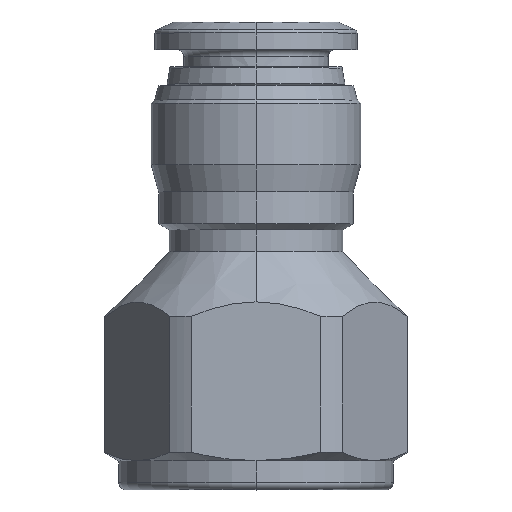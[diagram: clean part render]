
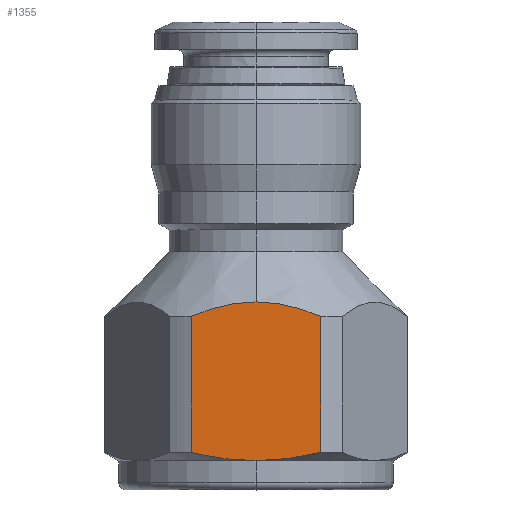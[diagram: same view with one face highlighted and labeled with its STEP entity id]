
A CAD part, top view. The second image highlights one B-rep face of the part: STEP entity #1355.
In plain terms, the highlighted planar face has unit normal (0, 0, 1).
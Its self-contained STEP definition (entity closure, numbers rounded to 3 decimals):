
#8 = CARTESIAN_POINT ( 'NONE',  ( 3.027, 12.556, 9.5 ) ) ;
#36 = CARTESIAN_POINT ( 'NONE',  ( 3.765, 12.301, 9.5 ) ) ;
#76 = CARTESIAN_POINT ( 'NONE',  ( 4.472, 12., 9.5 ) ) ;
#99 = EDGE_CURVE ( 'NONE', #1245, #666, #2232, .T. ) ;
#127 = LINE ( 'NONE', #870, #766 ) ;
#181 = B_SPLINE_CURVE_WITH_KNOTS ( 'NONE', 3,
 ( #2981, #2978, #2961, #2953, #2921, #2879, #2873, #2860, #2837, #2806 ),
 .UNSPECIFIED., .F., .F.,
 ( 4, 2, 2, 2, 4 ),
 ( 0.011, 0.012, 0.013, 0.014, 0.016 ),
 .UNSPECIFIED. ) ;
#371 = EDGE_LOOP ( 'NONE', ( #2923, #740, #1417, #2766, #576, #2686 ) ) ;
#452 = VERTEX_POINT ( 'NONE', #1434 ) ;
#576 = ORIENTED_EDGE ( 'NONE', *, *, #2830, .T. ) ;
#598 = CARTESIAN_POINT ( 'NONE',  ( -4.472, 12., 9.5 ) ) ;
#666 = VERTEX_POINT ( 'NONE', #1421 ) ;
#712 = VERTEX_POINT ( 'NONE', #2433 ) ;
#740 = ORIENTED_EDGE ( 'NONE', *, *, #1415, .T. ) ;
#766 = VECTOR ( 'NONE', #2158, 1000. ) ;
#779 = FACE_OUTER_BOUND ( 'NONE', #371, .T. ) ;
#837 = EDGE_CURVE ( 'NONE', #712, #1278, #2619, .T. ) ;
#870 = CARTESIAN_POINT ( 'NONE',  ( 4.472, 0., 9.5 ) ) ;
#1245 = VERTEX_POINT ( 'NONE', #2082 ) ;
#1278 = VERTEX_POINT ( 'NONE', #1972 ) ;
#1355 = ADVANCED_FACE ( 'NONE', ( #779 ), #3289, .T. ) ;
#1360 = CARTESIAN_POINT ( 'NONE',  ( 1.51, 2.065, 9.5 ) ) ;
#1367 = CARTESIAN_POINT ( 'NONE',  ( 1.888, 2.103, 9.5 ) ) ;
#1385 = CARTESIAN_POINT ( 'NONE',  ( 0.753, 2.013, 9.5 ) ) ;
#1397 = EDGE_CURVE ( 'NONE', #3057, #712, #181, .T. ) ;
#1401 = CARTESIAN_POINT ( 'NONE',  ( 0., 2., 9.5 ) ) ;
#1415 = EDGE_CURVE ( 'NONE', #3057, #452, #1931, .T. ) ;
#1417 = ORIENTED_EDGE ( 'NONE', *, *, #2577, .F. ) ;
#1421 = CARTESIAN_POINT ( 'NONE',  ( 0., 2., 9.5 ) ) ;
#1434 = CARTESIAN_POINT ( 'NONE',  ( -4.472, 2.577, 9.5 ) ) ;
#1496 = CARTESIAN_POINT ( 'NONE',  ( 3.745, 2.399, 9.5 ) ) ;
#1665 = CARTESIAN_POINT ( 'NONE',  ( 0.376, 2., 9.5 ) ) ;
#1811 = CARTESIAN_POINT ( 'NONE',  ( -4.472, 2.577, 9.5 ) ) ;
#1829 = CARTESIAN_POINT ( 'NONE',  ( -3.736, 2.396, 9.5 ) ) ;
#1854 = VECTOR ( 'NONE', #2750, 1000. ) ;
#1931 = LINE ( 'NONE', #2758, #1854 ) ;
#1948 = B_SPLINE_CURVE_WITH_KNOTS ( 'NONE', 3,
 ( #2850, #2601, #3121, #2067, #1829, #1811 ),
 .UNSPECIFIED., .F., .F.,
 ( 4, 2, 4 ),
 ( 0.03, 0.032, 0.034 ),
 .UNSPECIFIED. ) ;
#1972 = CARTESIAN_POINT ( 'NONE',  ( 4.472, 12., 9.5 ) ) ;
#2067 = CARTESIAN_POINT ( 'NONE',  ( -2.993, 2.25, 9.5 ) ) ;
#2082 = CARTESIAN_POINT ( 'NONE',  ( 4.472, 2.577, 9.5 ) ) ;
#2089 = CARTESIAN_POINT ( 'NONE',  ( 4.472, 2.577, 9.5 ) ) ;
#2121 = AXIS2_PLACEMENT_3D ( 'NONE', #3165, #3159, #3155 ) ;
#2158 = DIRECTION ( 'NONE',  ( 0., 1., 0. ) ) ;
#2232 = B_SPLINE_CURVE_WITH_KNOTS ( 'NONE', 3,
 ( #2089, #1496, #2267, #1367, #1360, #1385, #1665, #1401 ),
 .UNSPECIFIED., .F., .F.,
 ( 4, 2, 2, 4 ),
 ( 0.025, 0.028, 0.029, 0.03 ),
 .UNSPECIFIED. ) ;
#2267 = CARTESIAN_POINT ( 'NONE',  ( 3.01, 2.253, 9.5 ) ) ;
#2433 = CARTESIAN_POINT ( 'NONE',  ( 0., 13., 9.5 ) ) ;
#2577 = EDGE_CURVE ( 'NONE', #666, #452, #1948, .T. ) ;
#2601 = CARTESIAN_POINT ( 'NONE',  ( -0.753, 2., 9.5 ) ) ;
#2619 = B_SPLINE_CURVE_WITH_KNOTS ( 'NONE', 3,
 ( #3358, #3296, #3511, #8, #36, #76 ),
 .UNSPECIFIED., .F., .F.,
 ( 4, 2, 4 ),
 ( 0.016, 0.018, 0.02 ),
 .UNSPECIFIED. ) ;
#2686 = ORIENTED_EDGE ( 'NONE', *, *, #837, .F. ) ;
#2750 = DIRECTION ( 'NONE',  ( 0., -1., 0. ) ) ;
#2758 = CARTESIAN_POINT ( 'NONE',  ( -4.472, 0., 9.5 ) ) ;
#2766 = ORIENTED_EDGE ( 'NONE', *, *, #99, .F. ) ;
#2806 = CARTESIAN_POINT ( 'NONE',  ( 0., 13., 9.5 ) ) ;
#2830 = EDGE_CURVE ( 'NONE', #1245, #1278, #127, .T. ) ;
#2837 = CARTESIAN_POINT ( 'NONE',  ( -0.387, 13., 9.5 ) ) ;
#2850 = CARTESIAN_POINT ( 'NONE',  ( 0., 2., 9.5 ) ) ;
#2860 = CARTESIAN_POINT ( 'NONE',  ( -0.777, 12.976, 9.5 ) ) ;
#2873 = CARTESIAN_POINT ( 'NONE',  ( -1.54, 12.884, 9.5 ) ) ;
#2879 = CARTESIAN_POINT ( 'NONE',  ( -1.916, 12.815, 9.5 ) ) ;
#2921 = CARTESIAN_POINT ( 'NONE',  ( -2.66, 12.641, 9.5 ) ) ;
#2923 = ORIENTED_EDGE ( 'NONE', *, *, #1397, .F. ) ;
#2953 = CARTESIAN_POINT ( 'NONE',  ( -3.028, 12.535, 9.5 ) ) ;
#2961 = CARTESIAN_POINT ( 'NONE',  ( -3.755, 12.29, 9.5 ) ) ;
#2978 = CARTESIAN_POINT ( 'NONE',  ( -4.117, 12.151, 9.5 ) ) ;
#2981 = CARTESIAN_POINT ( 'NONE',  ( -4.472, 12., 9.5 ) ) ;
#3057 = VERTEX_POINT ( 'NONE', #598 ) ;
#3121 = CARTESIAN_POINT ( 'NONE',  ( -1.502, 2.052, 9.5 ) ) ;
#3155 = DIRECTION ( 'NONE',  ( 1., 0., 0. ) ) ;
#3159 = DIRECTION ( 'NONE',  ( 0., 0., 1. ) ) ;
#3165 = CARTESIAN_POINT ( 'NONE',  ( 5.485, 28., 9.5 ) ) ;
#3289 = PLANE ( 'NONE',  #2121 ) ;
#3296 = CARTESIAN_POINT ( 'NONE',  ( 0.775, 13., 9.5 ) ) ;
#3358 = CARTESIAN_POINT ( 'NONE',  ( 0., 13., 9.5 ) ) ;
#3511 = CARTESIAN_POINT ( 'NONE',  ( 1.534, 12.904, 9.5 ) ) ;
